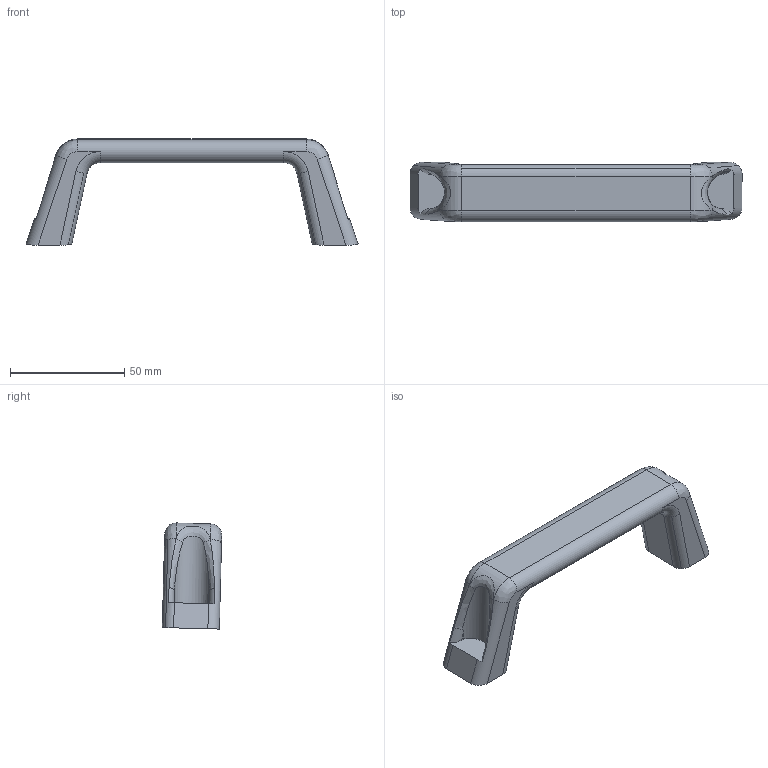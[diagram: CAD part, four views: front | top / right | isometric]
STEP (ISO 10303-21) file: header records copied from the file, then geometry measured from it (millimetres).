
FILE_DESCRIPTION((''),'2;1');
FILE_NAME('7038.stp','2023-10-10T10:21:09',(''),(''),'Mechanical Desktop 2006','Mechanical Desktop 2006',', , ');
FILE_SCHEMA(('CONFIG_CONTROL_DESIGN'));
Length unit declared in the file: millimetre
Products named in the file (2): 7038; TEIL1
Assembly tree (1 placements, depth 2):
  7038
    TEIL1
Bounding box: 145.53 x 26.05 x 46.5 mm (x, y, z)
Volume: 52269.9 mm3; surface area: 14216.5 mm2
Topology: 1 solids, 1 shells, 73 faces, 194 edges, 121 vertices
Faces by surface type: cylinder 33, plane 22, bspline 10, cone 4, torus 4
Entity records: 3362 total; most frequent: CARTESIAN_POINT 1447, DIRECTION 395, ORIENTED_EDGE 380, EDGE_CURVE 190, AXIS2_PLACEMENT_3D 157, VERTEX_POINT 121, VECTOR 81, LINE 81
